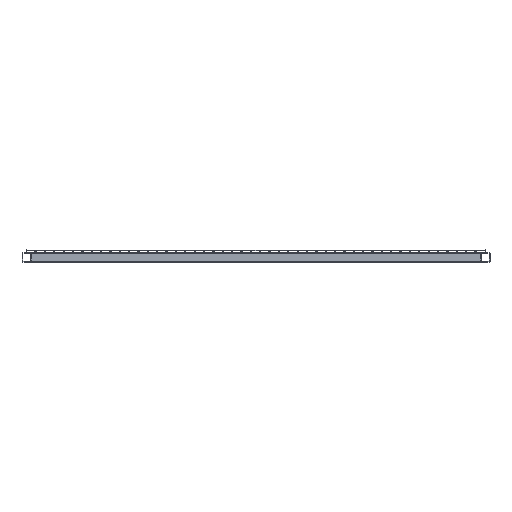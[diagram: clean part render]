
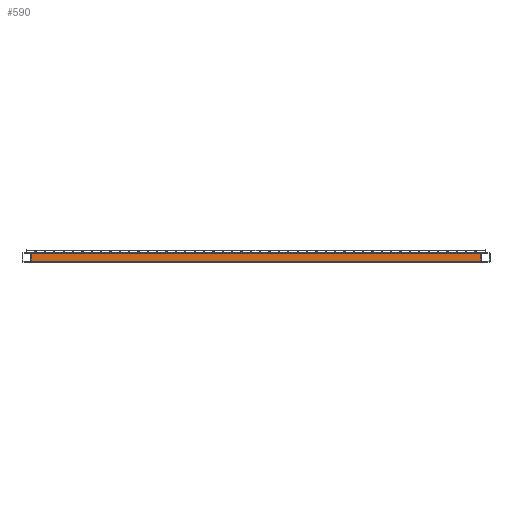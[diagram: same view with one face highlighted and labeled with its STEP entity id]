
A CAD part, front view. The second image highlights one B-rep face of the part: STEP entity #590.
In plain terms, the highlighted planar face has unit normal (0, -1, 0).
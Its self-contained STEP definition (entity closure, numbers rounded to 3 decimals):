
#507 = VECTOR ( 'NONE', #904, 1000. ) ;
#572 = CARTESIAN_POINT ( 'NONE',  ( -480., -844., -8. ) ) ;
#590 = ADVANCED_FACE ( 'NONE', ( #4939 ), #5867, .F. ) ;
#904 = DIRECTION ( 'NONE',  ( 0., 0., 1. ) ) ;
#1407 = CARTESIAN_POINT ( 'NONE',  ( 500., -844., 8. ) ) ;
#1434 = CARTESIAN_POINT ( 'NONE',  ( -480., -844., -8. ) ) ;
#1536 = CARTESIAN_POINT ( 'NONE',  ( 480., -844., -8. ) ) ;
#1790 = VERTEX_POINT ( 'NONE', #572 ) ;
#1843 = CARTESIAN_POINT ( 'NONE',  ( -480., -844., 8. ) ) ;
#2159 = EDGE_CURVE ( 'NONE', #1790, #9314, #5948, .T. ) ;
#2199 = EDGE_CURVE ( 'NONE', #2928, #9672, #3925, .T. ) ;
#2575 = CARTESIAN_POINT ( 'NONE',  ( 500., -844., -8. ) ) ;
#2756 = CARTESIAN_POINT ( 'NONE',  ( 480., -844., 8. ) ) ;
#2777 = DIRECTION ( 'NONE',  ( 0., 0., 1. ) ) ;
#2928 = VERTEX_POINT ( 'NONE', #2756 ) ;
#3271 = ORIENTED_EDGE ( 'NONE', *, *, #5575, .T. ) ;
#3606 = EDGE_CURVE ( 'NONE', #9672, #1790, #4833, .T. ) ;
#3717 = DIRECTION ( 'NONE',  ( 0., 0., -1. ) ) ;
#3925 = LINE ( 'NONE', #1536, #4310 ) ;
#4038 = EDGE_LOOP ( 'NONE', ( #9129, #8045, #6689, #3271 ) ) ;
#4310 = VECTOR ( 'NONE', #3717, 1000. ) ;
#4545 = DIRECTION ( 'NONE',  ( -1., 0., 0. ) ) ;
#4833 = LINE ( 'NONE', #2575, #8776 ) ;
#4939 = FACE_OUTER_BOUND ( 'NONE', #4038, .T. ) ;
#5575 = EDGE_CURVE ( 'NONE', #2928, #9314, #8998, .T. ) ;
#5621 = DIRECTION ( 'NONE',  ( -1., 0., 0. ) ) ;
#5641 = CARTESIAN_POINT ( 'NONE',  ( 480., -844., -8. ) ) ;
#5867 = PLANE ( 'NONE',  #6014 ) ;
#5948 = LINE ( 'NONE', #1434, #507 ) ;
#6014 = AXIS2_PLACEMENT_3D ( 'NONE', #6509, #7228, #2777 ) ;
#6509 = CARTESIAN_POINT ( 'NONE',  ( 500., -844., -8. ) ) ;
#6689 = ORIENTED_EDGE ( 'NONE', *, *, #2199, .F. ) ;
#7228 = DIRECTION ( 'NONE',  ( 0., 1., 0. ) ) ;
#8045 = ORIENTED_EDGE ( 'NONE', *, *, #3606, .F. ) ;
#8107 = VECTOR ( 'NONE', #4545, 1000. ) ;
#8776 = VECTOR ( 'NONE', #5621, 1000. ) ;
#8998 = LINE ( 'NONE', #1407, #8107 ) ;
#9129 = ORIENTED_EDGE ( 'NONE', *, *, #2159, .F. ) ;
#9314 = VERTEX_POINT ( 'NONE', #1843 ) ;
#9672 = VERTEX_POINT ( 'NONE', #5641 ) ;
